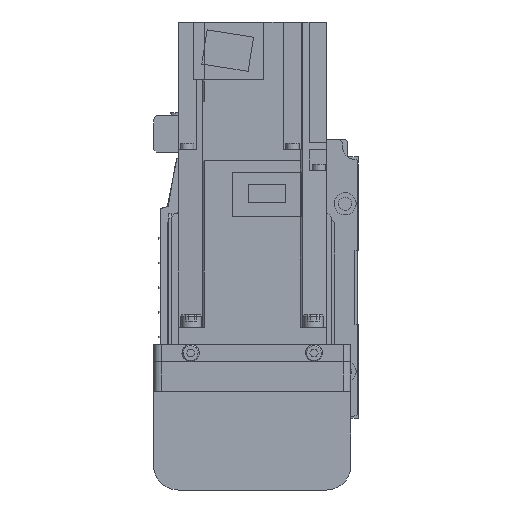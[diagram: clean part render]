
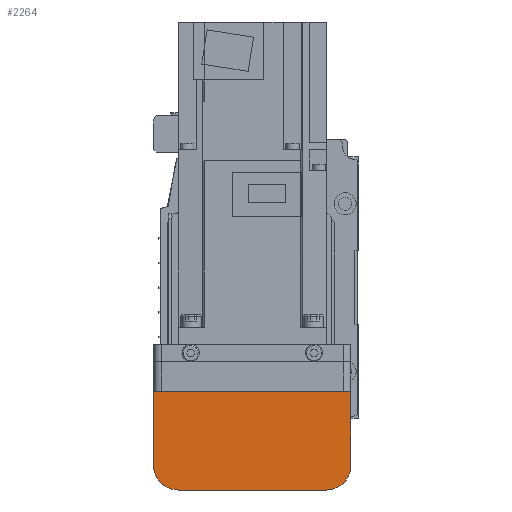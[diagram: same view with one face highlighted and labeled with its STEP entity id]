
A CAD part, left-side view. The second image highlights one B-rep face of the part: STEP entity #2264.
In plain terms, the highlighted planar face has unit normal (-1, 0, 0).
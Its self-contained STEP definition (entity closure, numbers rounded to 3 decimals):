
#2264 = ADVANCED_FACE( '', ( #4694 ), #4695, .F. );
#4694 = FACE_OUTER_BOUND( '', #7134, .T. );
#4695 = PLANE( '', #7135 );
#7134 = EDGE_LOOP( '', ( #13337, #13338, #13339, #13340, #13341, #13342 ) );
#7135 = AXIS2_PLACEMENT_3D( '', #13343, #13344, #13345 );
#13337 = ORIENTED_EDGE( '', *, *, #14044, .F. );
#13338 = ORIENTED_EDGE( '', *, *, #15213, .F. );
#13339 = ORIENTED_EDGE( '', *, *, #16158, .F. );
#13340 = ORIENTED_EDGE( '', *, *, #15884, .F. );
#13341 = ORIENTED_EDGE( '', *, *, #14259, .F. );
#13342 = ORIENTED_EDGE( '', *, *, #16162, .F. );
#13343 = CARTESIAN_POINT( '', ( -192., 37., 7. ) );
#13344 = DIRECTION( '', ( 1., 0., 0. ) );
#13345 = DIRECTION( '', ( 0., 0., -1. ) );
#14044 = EDGE_CURVE( '', #16747, #16749, #16750, .T. );
#14259 = EDGE_CURVE( '', #17123, #17125, #17126, .T. );
#15213 = EDGE_CURVE( '', #18638, #16747, #18640, .T. );
#15884 = EDGE_CURVE( '', #17125, #19547, #19548, .T. );
#16158 = EDGE_CURVE( '', #19547, #18638, #19860, .T. );
#16162 = EDGE_CURVE( '', #16749, #17123, #19864, .T. );
#16747 = VERTEX_POINT( '', #20612 );
#16749 = VERTEX_POINT( '', #20615 );
#16750 = LINE( '', #20616, #20617 );
#17123 = VERTEX_POINT( '', #21105 );
#17125 = VERTEX_POINT( '', #21108 );
#17126 = CIRCLE( '', #21109, 10. );
#18638 = VERTEX_POINT( '', #23122 );
#18640 = LINE( '', #23125, #23126 );
#19547 = VERTEX_POINT( '', #24360 );
#19548 = LINE( '', #24361, #24362 );
#19860 = CIRCLE( '', #24777, 10. );
#19864 = LINE( '', #24781, #24782 );
#20612 = CARTESIAN_POINT( '', ( -192., 40., -12.1 ) );
#20615 = CARTESIAN_POINT( '', ( -192., -40., -12.1 ) );
#20616 = CARTESIAN_POINT( '', ( -192., 50., -12.1 ) );
#20617 = VECTOR( '', #25227, 1000. );
#21105 = CARTESIAN_POINT( '', ( -192., -40., -42. ) );
#21108 = CARTESIAN_POINT( '', ( -192., -30., -52. ) );
#21109 = AXIS2_PLACEMENT_3D( '', #25509, #25510, #25511 );
#23122 = CARTESIAN_POINT( '', ( -192., 40., -42. ) );
#23125 = CARTESIAN_POINT( '', ( -192., 40., -42. ) );
#23126 = VECTOR( '', #26710, 1000. );
#24360 = CARTESIAN_POINT( '', ( -192., 30., -52. ) );
#24361 = CARTESIAN_POINT( '', ( -192., -30., -52. ) );
#24362 = VECTOR( '', #27494, 1000. );
#24777 = AXIS2_PLACEMENT_3D( '', #27691, #27692, #27693 );
#24781 = CARTESIAN_POINT( '', ( -192., -40., -12.1 ) );
#24782 = VECTOR( '', #27697, 1000. );
#25227 = DIRECTION( '', ( 0., -1., 0. ) );
#25509 = CARTESIAN_POINT( '', ( -192., -30., -42. ) );
#25510 = DIRECTION( '', ( 1., 0., 0. ) );
#25511 = DIRECTION( '', ( 0., 0., -1. ) );
#26710 = DIRECTION( '', ( 0., 0., 1. ) );
#27494 = DIRECTION( '', ( 0., 1., 0. ) );
#27691 = CARTESIAN_POINT( '', ( -192., 30., -42. ) );
#27692 = DIRECTION( '', ( 1., 0., 0. ) );
#27693 = DIRECTION( '', ( 0., 0., -1. ) );
#27697 = DIRECTION( '', ( 0., 0., -1. ) );
